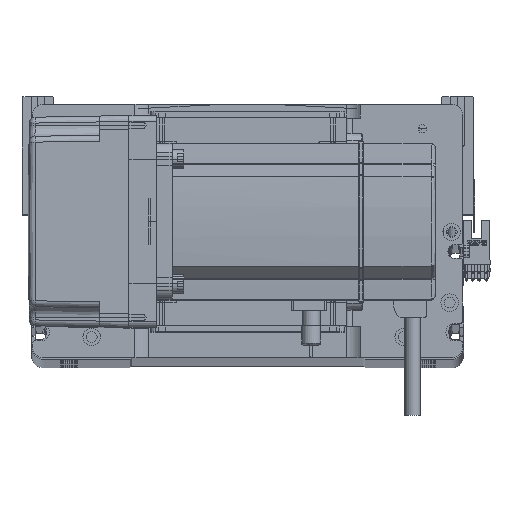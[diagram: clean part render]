
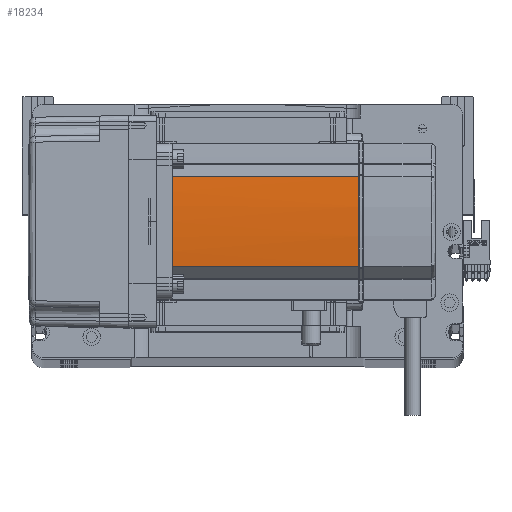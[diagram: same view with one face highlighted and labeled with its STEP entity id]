
A CAD part, top view. The second image highlights one B-rep face of the part: STEP entity #18234.
In plain terms, the highlighted cylindrical face has radius 270 mm (diameter 540 mm), a partial arc.
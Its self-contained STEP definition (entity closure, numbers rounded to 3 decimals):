
#233 = VECTOR ( 'NONE', #43247, 1000. ) ;
#601 = VERTEX_POINT ( 'NONE', #44499 ) ;
#1109 = EDGE_CURVE ( 'NONE', #47346, #41728, #22285, .T. ) ;
#4965 = DIRECTION ( 'NONE',  ( -1., 0., 0. ) ) ;
#5819 = CARTESIAN_POINT ( 'NONE',  ( -230., 0., 58. ) ) ;
#7066 = DIRECTION ( 'NONE',  ( -1., 0., 0. ) ) ;
#7315 = ORIENTED_EDGE ( 'NONE', *, *, #24742, .T. ) ;
#7589 = ORIENTED_EDGE ( 'NONE', *, *, #23958, .T. ) ;
#12684 = DIRECTION ( 'NONE',  ( 0., 0., 1. ) ) ;
#13003 = CARTESIAN_POINT ( 'NONE',  ( -230., 0., 134. ) ) ;
#13590 = CARTESIAN_POINT ( 'NONE',  ( 40., -0.042, 134. ) ) ;
#13875 = LINE ( 'NONE', #17290, #233 ) ;
#13935 = CARTESIAN_POINT ( 'NONE',  ( 40., 0.127, 134. ) ) ;
#14239 = EDGE_CURVE ( 'NONE', #47346, #53748, #17061, .T. ) ;
#16742 = EDGE_LOOP ( 'NONE', ( #22284, #56696, #25579, #7589, #23891, #7315 ) ) ;
#17061 = LINE ( 'NONE', #21536, #32920 ) ;
#17290 = CARTESIAN_POINT ( 'NONE',  ( 39.042, -22.724, 58. ) ) ;
#17673 = B_SPLINE_CURVE_WITH_KNOTS ( 'NONE', 3,
 ( #26882, #13590, #39758, #13935 ),
 .UNSPECIFIED., .F., .F.,
 ( 4, 4 ),
 ( 0., 1. ),
 .UNSPECIFIED. ) ;
#18023 = CARTESIAN_POINT ( 'NONE',  ( -230., 0., 39. ) ) ;
#18215 = DIRECTION ( 'NONE',  ( 0., 0., -1. ) ) ;
#18234 = ADVANCED_FACE ( 'NONE', ( #26089 ), #36384, .T. ) ;
#19821 = AXIS2_PLACEMENT_3D ( 'NONE', #13003, #48181, #31070 ) ;
#21536 = CARTESIAN_POINT ( 'NONE',  ( 39.042, 22.724, 58. ) ) ;
#22284 = ORIENTED_EDGE ( 'NONE', *, *, #45969, .T. ) ;
#22285 = CIRCLE ( 'NONE', #36997, 270. ) ;
#23891 = ORIENTED_EDGE ( 'NONE', *, *, #39778, .F. ) ;
#23958 = EDGE_CURVE ( 'NONE', #53748, #601, #39893, .T. ) ;
#24742 = EDGE_CURVE ( 'NONE', #56546, #53911, #54165, .T. ) ;
#25579 = ORIENTED_EDGE ( 'NONE', *, *, #14239, .T. ) ;
#26089 = FACE_OUTER_BOUND ( 'NONE', #16742, .T. ) ;
#26882 = CARTESIAN_POINT ( 'NONE',  ( 40., -0.127, 134. ) ) ;
#30234 = CARTESIAN_POINT ( 'NONE',  ( 39.042, -22.724, 134. ) ) ;
#31070 = DIRECTION ( 'NONE',  ( -1., 0., 0. ) ) ;
#32920 = VECTOR ( 'NONE', #12684, 1000. ) ;
#33438 = DIRECTION ( 'NONE',  ( 0., 0., -1. ) ) ;
#36384 = CYLINDRICAL_SURFACE ( 'NONE', #45724, 270. ) ;
#36825 = CARTESIAN_POINT ( 'NONE',  ( 39.042, 22.724, 134. ) ) ;
#36995 = CARTESIAN_POINT ( 'NONE',  ( 39.042, 22.724, 39. ) ) ;
#36997 = AXIS2_PLACEMENT_3D ( 'NONE', #18023, #18215, #4965 ) ;
#38934 = AXIS2_PLACEMENT_3D ( 'NONE', #50313, #33438, #7066 ) ;
#39758 = CARTESIAN_POINT ( 'NONE',  ( 40., 0.042, 134. ) ) ;
#39778 = EDGE_CURVE ( 'NONE', #56546, #601, #17673, .T. ) ;
#39893 = CIRCLE ( 'NONE', #38934, 270. ) ;
#41728 = VERTEX_POINT ( 'NONE', #54972 ) ;
#43247 = DIRECTION ( 'NONE',  ( 0., 0., -1. ) ) ;
#44499 = CARTESIAN_POINT ( 'NONE',  ( 40., 0.127, 134. ) ) ;
#45724 = AXIS2_PLACEMENT_3D ( 'NONE', #5819, #49856, #54211 ) ;
#45969 = EDGE_CURVE ( 'NONE', #53911, #41728, #13875, .T. ) ;
#47346 = VERTEX_POINT ( 'NONE', #36995 ) ;
#48181 = DIRECTION ( 'NONE',  ( 0., 0., -1. ) ) ;
#49856 = DIRECTION ( 'NONE',  ( 0., 0., -1. ) ) ;
#50313 = CARTESIAN_POINT ( 'NONE',  ( -230., 0., 134. ) ) ;
#53748 = VERTEX_POINT ( 'NONE', #36825 ) ;
#53911 = VERTEX_POINT ( 'NONE', #30234 ) ;
#54165 = CIRCLE ( 'NONE', #19821, 270. ) ;
#54211 = DIRECTION ( 'NONE',  ( -1., 0., 0. ) ) ;
#54879 = CARTESIAN_POINT ( 'NONE',  ( 40., -0.127, 134. ) ) ;
#54972 = CARTESIAN_POINT ( 'NONE',  ( 39.042, -22.724, 39. ) ) ;
#56546 = VERTEX_POINT ( 'NONE', #54879 ) ;
#56696 = ORIENTED_EDGE ( 'NONE', *, *, #1109, .F. ) ;
